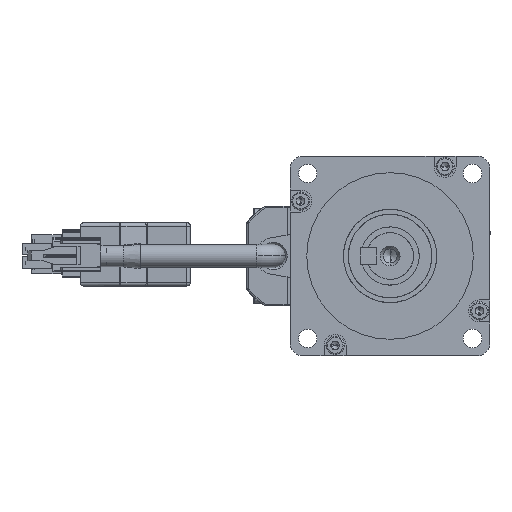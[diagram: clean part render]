
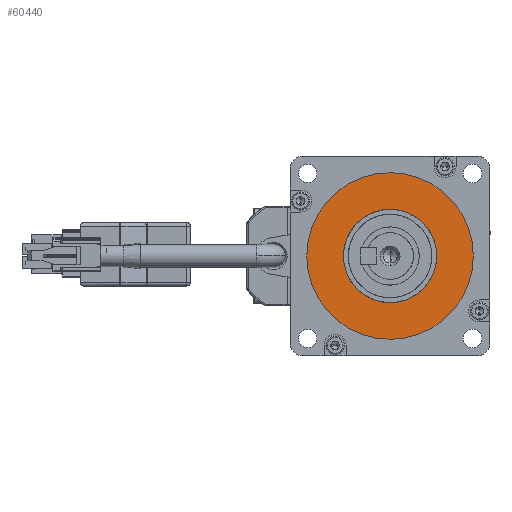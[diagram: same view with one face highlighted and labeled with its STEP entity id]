
A CAD part, left-side view. The second image highlights one B-rep face of the part: STEP entity #60440.
In plain terms, the highlighted planar face has unit normal (-1, 0, 0).
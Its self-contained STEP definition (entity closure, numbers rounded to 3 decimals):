
#956 = DIRECTION ( 'NONE',  ( 0., 0., 1. ) ) ;
#4574 = EDGE_LOOP ( 'NONE', ( #49738, #55958 ) ) ;
#4607 = ORIENTED_EDGE ( 'NONE', *, *, #62215, .F. ) ;
#5203 = AXIS2_PLACEMENT_3D ( 'NONE', #60912, #30940, #956 ) ;
#7489 = DIRECTION ( 'NONE',  ( -1., 0., 0. ) ) ;
#8906 = CARTESIAN_POINT ( 'NONE',  ( -5.4, 0., 0. ) ) ;
#10562 = AXIS2_PLACEMENT_3D ( 'NONE', #8906, #43924, #13939 ) ;
#11801 = CIRCLE ( 'NONE', #5203, 25. ) ;
#13618 = CIRCLE ( 'NONE', #52758, 25. ) ;
#13939 = DIRECTION ( 'NONE',  ( 0., 0., 1. ) ) ;
#16095 = FACE_OUTER_BOUND ( 'NONE', #4574, .T. ) ;
#17494 = PLANE ( 'NONE',  #34425 ) ;
#18952 = AXIS2_PLACEMENT_3D ( 'NONE', #59258, #29281, #64278 ) ;
#20257 = CARTESIAN_POINT ( 'NONE',  ( -5.4, 0., -25. ) ) ;
#22310 = CARTESIAN_POINT ( 'NONE',  ( -5.4, 0., 0. ) ) ;
#22532 = DIRECTION ( 'NONE',  ( 1., 0., 0. ) ) ;
#24370 = EDGE_CURVE ( 'NONE', #25742, #56403, #13618, .T. ) ;
#25742 = VERTEX_POINT ( 'NONE', #46550 ) ;
#25973 = CARTESIAN_POINT ( 'NONE',  ( -5.4, 0., -14. ) ) ;
#29281 = DIRECTION ( 'NONE',  ( -1., 0., 0. ) ) ;
#30940 = DIRECTION ( 'NONE',  ( -1., 0., 0. ) ) ;
#31088 = EDGE_LOOP ( 'NONE', ( #57716, #4607 ) ) ;
#34425 = AXIS2_PLACEMENT_3D ( 'NONE', #22310, #22532, #57575 ) ;
#37469 = CARTESIAN_POINT ( 'NONE',  ( -5.4, 0., 0. ) ) ;
#40263 = CIRCLE ( 'NONE', #10562, 14. ) ;
#42495 = DIRECTION ( 'NONE',  ( 0., 0., 1. ) ) ;
#43924 = DIRECTION ( 'NONE',  ( -1., 0., 0. ) ) ;
#44870 = CIRCLE ( 'NONE', #18952, 14. ) ;
#46550 = CARTESIAN_POINT ( 'NONE',  ( -5.4, 0., 25. ) ) ;
#49738 = ORIENTED_EDGE ( 'NONE', *, *, #24370, .T. ) ;
#51804 = CARTESIAN_POINT ( 'NONE',  ( -5.4, 0., 14. ) ) ;
#51986 = EDGE_CURVE ( 'NONE', #58240, #64336, #40263, .T. ) ;
#52758 = AXIS2_PLACEMENT_3D ( 'NONE', #37469, #7489, #42495 ) ;
#55958 = ORIENTED_EDGE ( 'NONE', *, *, #62972, .T. ) ;
#56403 = VERTEX_POINT ( 'NONE', #20257 ) ;
#57575 = DIRECTION ( 'NONE',  ( 0., 0., -1. ) ) ;
#57633 = FACE_BOUND ( 'NONE', #31088, .T. ) ;
#57716 = ORIENTED_EDGE ( 'NONE', *, *, #51986, .F. ) ;
#58240 = VERTEX_POINT ( 'NONE', #51804 ) ;
#59258 = CARTESIAN_POINT ( 'NONE',  ( -5.4, 0., 0. ) ) ;
#60440 = ADVANCED_FACE ( 'NONE', ( #57633, #16095 ), #17494, .F. ) ;
#60912 = CARTESIAN_POINT ( 'NONE',  ( -5.4, 0., 0. ) ) ;
#62215 = EDGE_CURVE ( 'NONE', #64336, #58240, #44870, .T. ) ;
#62972 = EDGE_CURVE ( 'NONE', #56403, #25742, #11801, .T. ) ;
#64278 = DIRECTION ( 'NONE',  ( 0., 0., 1. ) ) ;
#64336 = VERTEX_POINT ( 'NONE', #25973 ) ;
